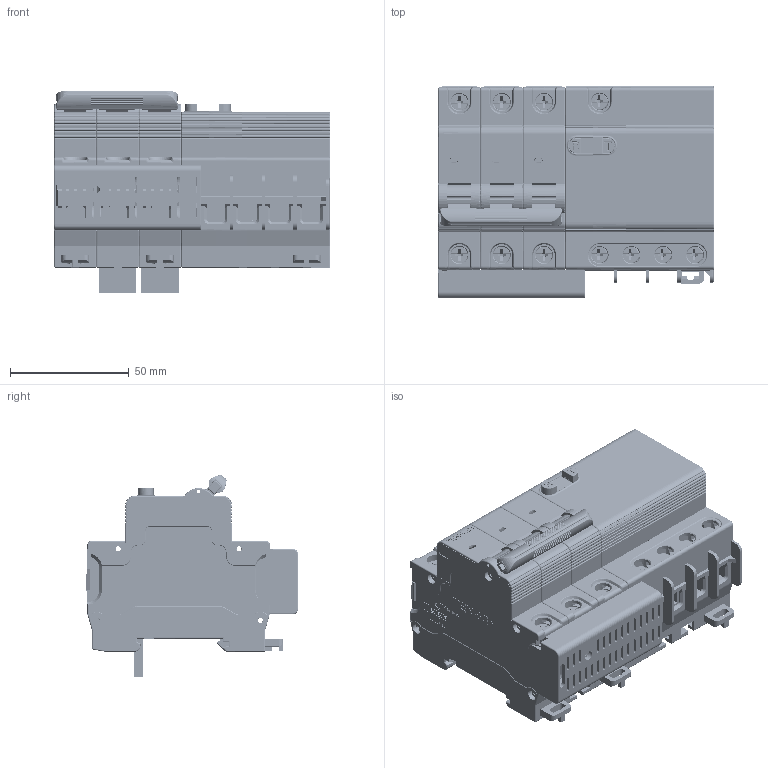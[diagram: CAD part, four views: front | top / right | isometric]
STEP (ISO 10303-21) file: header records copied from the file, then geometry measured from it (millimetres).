
FILE_DESCRIPTION (( 'STEP AP214' ), '1' );
FILE_NAME ('TGB1NLE-63 3P+N.STEP', '2025-12-12T12:32:31', ( '' ), ( '' ), 'SwSTEP 2.0', 'SolidWorks 2024', '' );
FILE_SCHEMA (( 'AUTOMOTIVE_DESIGN' ));
Length unit declared in the file: millimetre
Products named in the file (12): 2TZD_256_1141_ASM_SW0001_8.stp; 2TZD_256_1141_ASM_SW0001_9.stp; 2TZD_256_1141_ASM_SW0001_1.stp; 2TZD_256_1141_ASM_SW0001_10.stp; TGB1NLE-63 3P+N.stp; TGB1NLE-63 3P+N; 2TZD_256_1141_ASM_SW0001_6.stp; 2TZD_256_1141_ASM_SW0001_2.stp; 2TZD_256_1141_ASM_SW0001_4.stp; 2TZD_256_1141_ASM_SW0001_3.stp; 2TZD_256_1141_ASM_SW0001_7.stp; 2TZD_256_1141_ASM_SW0001_5.stp
Assembly tree (11 placements, depth 3):
  TGB1NLE-63 3P+N
    TGB1NLE-63 3P+N.stp
      2TZD_256_1141_ASM_SW0001_1.stp
      2TZD_256_1141_ASM_SW0001_2.stp
      2TZD_256_1141_ASM_SW0001_3.stp
      2TZD_256_1141_ASM_SW0001_4.stp
      2TZD_256_1141_ASM_SW0001_5.stp
      2TZD_256_1141_ASM_SW0001_6.stp
      2TZD_256_1141_ASM_SW0001_7.stp
      2TZD_256_1141_ASM_SW0001_8.stp
      2TZD_256_1141_ASM_SW0001_9.stp
      2TZD_256_1141_ASM_SW0001_10.stp
Bounding box: 116.1 x 89.4 x 85.11 mm (x, y, z)
Volume: 467388.4 mm3; surface area: 228013.6 mm2
Topology: 10 solids, 10 shells, 15329 faces, 42243 edges, 27052 vertices
Faces by surface type: plane 9522, cylinder 3660, torus 843, bspline 672, cone 510, sphere 122
Entity records: 561662 total; most frequent: CARTESIAN_POINT 209426, ORIENTED_EDGE 84120, DIRECTION 57351, EDGE_CURVE 42060, VERTEX_POINT 27029, AXIS2_PLACEMENT_3D 20130, B_SPLINE_CURVE_WITH_KNOTS 19235, VECTOR 17091
